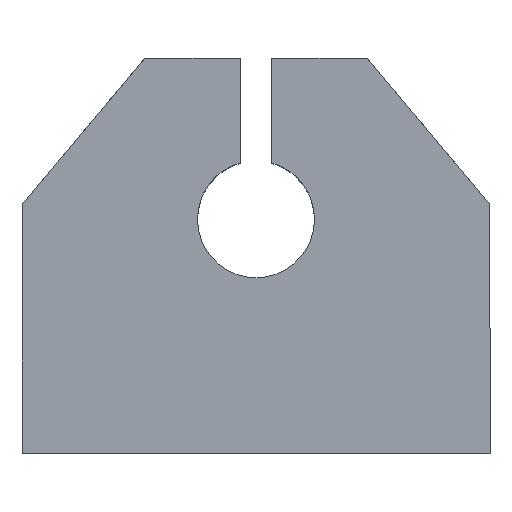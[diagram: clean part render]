
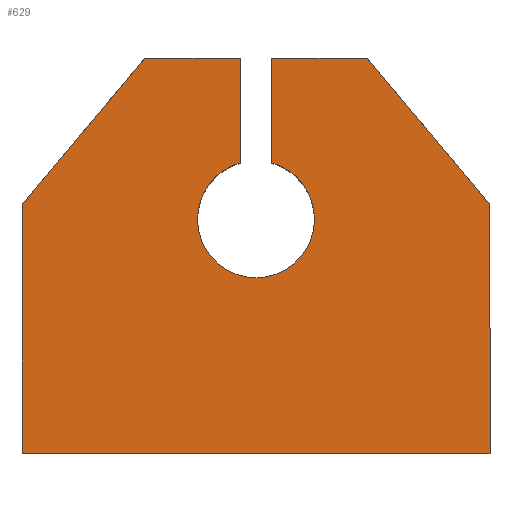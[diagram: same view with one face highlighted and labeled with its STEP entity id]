
A CAD part, top view. The second image highlights one B-rep face of the part: STEP entity #629.
In plain terms, the highlighted planar face has unit normal (0, 0, 1).
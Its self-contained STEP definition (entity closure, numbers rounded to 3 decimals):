
#4 = CARTESIAN_POINT ( 'NONE',  ( -1.075, 13.5, 8. ) ) ;
#18 = VECTOR ( 'NONE', #787, 1000. ) ;
#28 = DIRECTION ( 'NONE',  ( 1., 0., 0. ) ) ;
#29 = EDGE_CURVE ( 'NONE', #939, #316, #1052, .T. ) ;
#31 = CARTESIAN_POINT ( 'NONE',  ( 1.075, 6.353, 8. ) ) ;
#53 = EDGE_CURVE ( 'NONE', #569, #96, #813, .T. ) ;
#58 = VECTOR ( 'NONE', #114, 1000. ) ;
#63 = LINE ( 'NONE', #1019, #158 ) ;
#68 = VERTEX_POINT ( 'NONE', #31 ) ;
#91 = ORIENTED_EDGE ( 'NONE', *, *, #29, .T. ) ;
#94 = PLANE ( 'NONE',  #374 ) ;
#96 = VERTEX_POINT ( 'NONE', #890 ) ;
#101 = DIRECTION ( 'NONE',  ( 1., 0., 0. ) ) ;
#114 = DIRECTION ( 'NONE',  ( 1., 0., 0. ) ) ;
#157 = AXIS2_PLACEMENT_3D ( 'NONE', #711, #512, #28 ) ;
#158 = VECTOR ( 'NONE', #654, 1000. ) ;
#164 = VECTOR ( 'NONE', #413, 1000. ) ;
#171 = DIRECTION ( 'NONE',  ( -1., 0., 0. ) ) ;
#188 = CARTESIAN_POINT ( 'NONE',  ( -16., 13.5, 8. ) ) ;
#197 = DIRECTION ( 'NONE',  ( 0., 0., 1. ) ) ;
#203 = ORIENTED_EDGE ( 'NONE', *, *, #857, .T. ) ;
#236 = AXIS2_PLACEMENT_3D ( 'NONE', #874, #197, #1102 ) ;
#249 = CARTESIAN_POINT ( 'NONE',  ( -16., 3.5, 8. ) ) ;
#252 = CARTESIAN_POINT ( 'NONE',  ( -16., 13.5, 8. ) ) ;
#273 = ORIENTED_EDGE ( 'NONE', *, *, #330, .T. ) ;
#283 = EDGE_CURVE ( 'NONE', #794, #573, #490, .T. ) ;
#290 = VECTOR ( 'NONE', #171, 1000. ) ;
#306 = DIRECTION ( 'NONE',  ( 0., 0., 1. ) ) ;
#316 = VERTEX_POINT ( 'NONE', #1080 ) ;
#329 = CARTESIAN_POINT ( 'NONE',  ( 1.075, 13.5, 8. ) ) ;
#330 = EDGE_CURVE ( 'NONE', #316, #794, #477, .T. ) ;
#335 = VECTOR ( 'NONE', #350, 1000. ) ;
#338 = CARTESIAN_POINT ( 'NONE',  ( -1.075, 13.5, 8. ) ) ;
#350 = DIRECTION ( 'NONE',  ( 0., -1., 0. ) ) ;
#374 = AXIS2_PLACEMENT_3D ( 'NONE', #383, #785, #101 ) ;
#376 = VECTOR ( 'NONE', #644, 1000. ) ;
#379 = CARTESIAN_POINT ( 'NONE',  ( 16., 13.5, 8. ) ) ;
#383 = CARTESIAN_POINT ( 'NONE',  ( 0., 0., 8. ) ) ;
#413 = DIRECTION ( 'NONE',  ( 0., -1., 0. ) ) ;
#445 = CARTESIAN_POINT ( 'NONE',  ( -16., 13.5, 8. ) ) ;
#472 = LINE ( 'NONE', #252, #376 ) ;
#477 = LINE ( 'NONE', #591, #58 ) ;
#479 = LINE ( 'NONE', #1153, #335 ) ;
#490 = LINE ( 'NONE', #379, #18 ) ;
#499 = CIRCLE ( 'NONE', #236, 4. ) ;
#512 = DIRECTION ( 'NONE',  ( 0., 0., 1. ) ) ;
#544 = VERTEX_POINT ( 'NONE', #937 ) ;
#558 = LINE ( 'NONE', #338, #1162 ) ;
#560 = CARTESIAN_POINT ( 'NONE',  ( -4., 2.5, 8. ) ) ;
#569 = VERTEX_POINT ( 'NONE', #560 ) ;
#572 = EDGE_CURVE ( 'NONE', #605, #939, #750, .T. ) ;
#573 = VERTEX_POINT ( 'NONE', #756 ) ;
#590 = ORIENTED_EDGE ( 'NONE', *, *, #707, .F. ) ;
#591 = CARTESIAN_POINT ( 'NONE',  ( -16., -13.5, 8. ) ) ;
#601 = ORIENTED_EDGE ( 'NONE', *, *, #1039, .T. ) ;
#605 = VERTEX_POINT ( 'NONE', #778 ) ;
#615 = EDGE_LOOP ( 'NONE', ( #203, #788, #695, #929, #590, #828, #601, #652, #91, #273, #1109, #659 ) ) ;
#629 = ADVANCED_FACE ( 'NONE', ( #952 ), #94, .T. ) ;
#633 = DIRECTION ( 'NONE',  ( 0., -1., 0. ) ) ;
#644 = DIRECTION ( 'NONE',  ( -1., 0., 0. ) ) ;
#646 = CARTESIAN_POINT ( 'NONE',  ( -1.075, 6.353, 8. ) ) ;
#650 = CARTESIAN_POINT ( 'NONE',  ( -11.113, 9.325, 8. ) ) ;
#652 = ORIENTED_EDGE ( 'NONE', *, *, #572, .T. ) ;
#654 = DIRECTION ( 'NONE',  ( -0.643, 0.766, 0. ) ) ;
#659 = ORIENTED_EDGE ( 'NONE', *, *, #914, .T. ) ;
#667 = VERTEX_POINT ( 'NONE', #4 ) ;
#675 = EDGE_CURVE ( 'NONE', #96, #68, #499, .T. ) ;
#695 = ORIENTED_EDGE ( 'NONE', *, *, #675, .F. ) ;
#707 = EDGE_CURVE ( 'NONE', #1174, #569, #1026, .T. ) ;
#711 = CARTESIAN_POINT ( 'NONE',  ( 0., 2.5, 8. ) ) ;
#750 = LINE ( 'NONE', #650, #1197 ) ;
#756 = CARTESIAN_POINT ( 'NONE',  ( 16., 3.5, 8. ) ) ;
#778 = CARTESIAN_POINT ( 'NONE',  ( -7.609, 13.5, 8. ) ) ;
#785 = DIRECTION ( 'NONE',  ( 0., 0., 1. ) ) ;
#787 = DIRECTION ( 'NONE',  ( 0., 1., 0. ) ) ;
#788 = ORIENTED_EDGE ( 'NONE', *, *, #816, .T. ) ;
#794 = VERTEX_POINT ( 'NONE', #1037 ) ;
#813 = CIRCLE ( 'NONE', #967, 4. ) ;
#816 = EDGE_CURVE ( 'NONE', #1089, #68, #479, .T. ) ;
#828 = ORIENTED_EDGE ( 'NONE', *, *, #876, .F. ) ;
#857 = EDGE_CURVE ( 'NONE', #544, #1089, #1126, .T. ) ;
#873 = DIRECTION ( 'NONE',  ( 1., 0., 0. ) ) ;
#874 = CARTESIAN_POINT ( 'NONE',  ( 0., 2.5, 8. ) ) ;
#876 = EDGE_CURVE ( 'NONE', #667, #1174, #558, .T. ) ;
#890 = CARTESIAN_POINT ( 'NONE',  ( 4., 2.5, 8. ) ) ;
#914 = EDGE_CURVE ( 'NONE', #573, #544, #63, .T. ) ;
#929 = ORIENTED_EDGE ( 'NONE', *, *, #53, .F. ) ;
#937 = CARTESIAN_POINT ( 'NONE',  ( 7.609, 13.5, 8. ) ) ;
#939 = VERTEX_POINT ( 'NONE', #249 ) ;
#952 = FACE_OUTER_BOUND ( 'NONE', #615, .T. ) ;
#967 = AXIS2_PLACEMENT_3D ( 'NONE', #1172, #306, #873 ) ;
#1019 = CARTESIAN_POINT ( 'NONE',  ( 11.113, 9.325, 8. ) ) ;
#1026 = CIRCLE ( 'NONE', #157, 4. ) ;
#1037 = CARTESIAN_POINT ( 'NONE',  ( 16., -13.5, 8. ) ) ;
#1039 = EDGE_CURVE ( 'NONE', #667, #605, #472, .T. ) ;
#1052 = LINE ( 'NONE', #188, #164 ) ;
#1080 = CARTESIAN_POINT ( 'NONE',  ( -16., -13.5, 8. ) ) ;
#1089 = VERTEX_POINT ( 'NONE', #329 ) ;
#1102 = DIRECTION ( 'NONE',  ( 1., 0., 0. ) ) ;
#1109 = ORIENTED_EDGE ( 'NONE', *, *, #283, .T. ) ;
#1126 = LINE ( 'NONE', #445, #290 ) ;
#1153 = CARTESIAN_POINT ( 'NONE',  ( 1.075, 13.5, 8. ) ) ;
#1162 = VECTOR ( 'NONE', #633, 1000. ) ;
#1172 = CARTESIAN_POINT ( 'NONE',  ( 0., 2.5, 8. ) ) ;
#1174 = VERTEX_POINT ( 'NONE', #646 ) ;
#1197 = VECTOR ( 'NONE', #1234, 1000. ) ;
#1234 = DIRECTION ( 'NONE',  ( -0.643, -0.766, 0. ) ) ;
